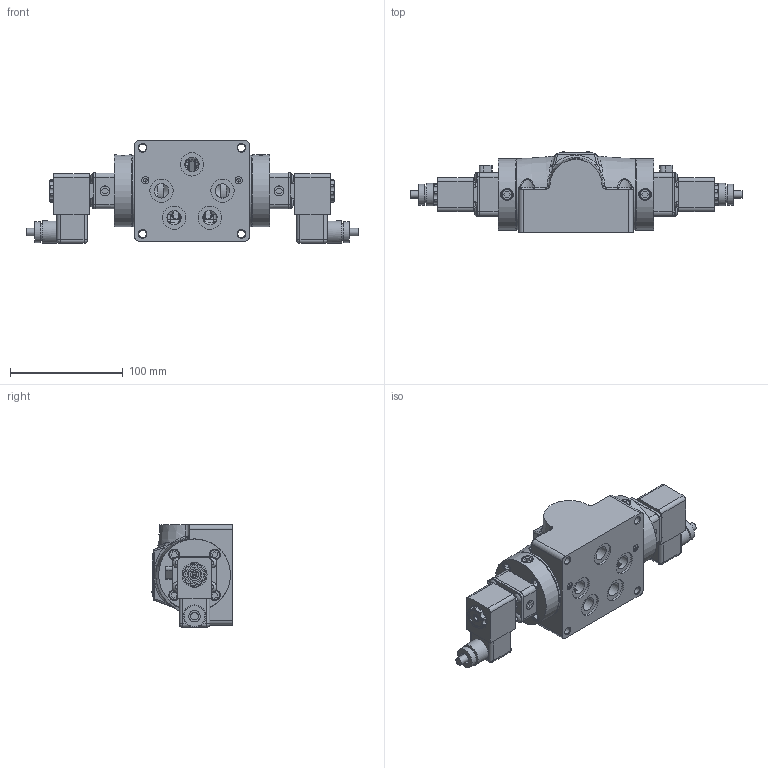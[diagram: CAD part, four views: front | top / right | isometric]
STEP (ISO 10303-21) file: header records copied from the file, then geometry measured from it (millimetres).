
FILE_DESCRIPTION(/* description */ (''),/* implementation_level */ '2;1');
FILE_NAME(/* name */ 'D:\Website Files\stp\Valves\Standard\ESY\ESY4PTO.stp',/* time_stamp */ '2016-02-07T09:04:15-05:00',/* author */ ('RMcKenna'),/* organization */ (''),/* preprocessor_version */ 'ST-DEVELOPER v15.6',/* originating_system */ 'Autodesk Inventor 2015',/* authorisation */ '');
FILE_SCHEMA (('AUTOMOTIVE_DESIGN { 1 0 10303 214 3 1 1 }'));
Products named in the file (1): Part6
Bounding box: 293.87 x 71.21 x 90.93 mm (x, y, z)
Volume: 682124.2 mm3; surface area: 164370.6 mm2
Topology: 4 solids, 56 shells, 2785 faces, 6752 edges, 4261 vertices
Faces by surface type: plane 1119, cylinder 746, cone 363, bspline 335, torus 188, sphere 34
Full cylindrical faces by diameter (mm): 1.3 x2, 1.5 x4, 2.007 x4, 2.032 x16, 2.07 x2, 2.261 x2, 2.35 x8, 2.388 x2, 2.5 x2, 2.778 x2, 2.8 x2, 3 x8, 3.048 x8, 3.175 x6, 3.4 x2, 3.683 x9, 4.191 x4, 4.305 x2, 4.826 x8, 4.978 x8, 5.15 x8, 5.156 x8, 5.5 x2, 6.35 x10, 6.629 x4, 6.65 x2, 6.731 x2, 6.747 x8, 6.9 x2, 7.144 x8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
Entity records: 93038 total; most frequent: CARTESIAN_POINT 29843, ORIENTED_EDGE 12158, DIRECTION 12064, EDGE_CURVE 6075, AXIS2_PLACEMENT_3D 4792, VERTEX_POINT 4043, EDGE_LOOP 3524, FACE_OUTER_BOUND 2785
